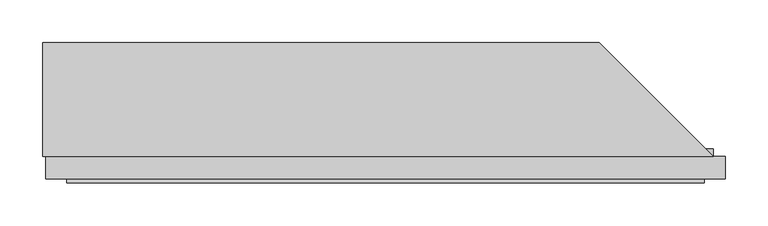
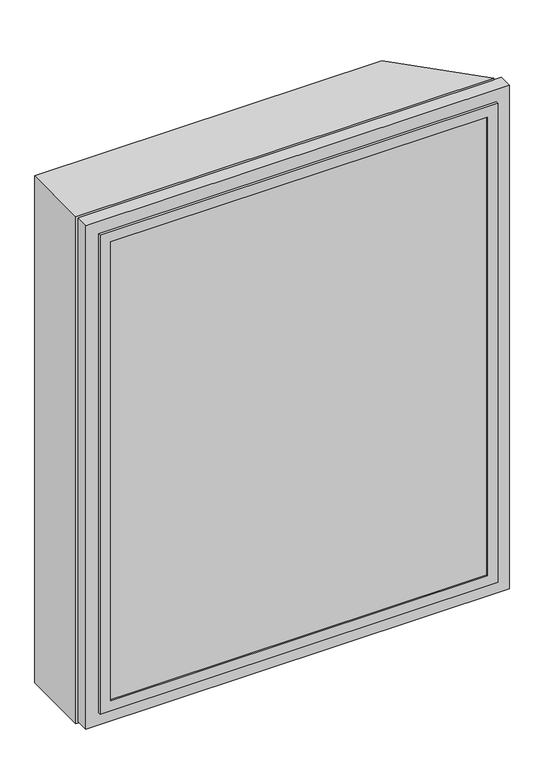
"""IFC4 building model written with IfcOpenShell, lengths in millimetres: plate geometry, SCISSOR PANEL : SCISSOR PANEL."""

from ifc_helpers import new_model, si_unit, frame, origin, place, context, project, spatial, polyline, outline, extrude, faceted_brep, source, transform, mapped, element, save


def plate_52a0c9b0(model_context):
    return source(origin(), model_context, "Body", "SolidModel", [
        faceted_brep([(-398.9048282, -132.5, 0.0), (381.4048282, -132.5, 0.0), (381.4048282, -132.5, 17.5), (-381.4048282, -132.5, 17.5), (-381.4048282, -132.5, 982.5), (381.4048282, -132.5, 982.5), (381.4048282, -132.5, 1000.0), (-398.9048282, -132.5, 1000.0), (-381.4048282, 0.0, 982.5), (-381.4048282, 0.0, 17.5), (248.9048282, 0.0, 1000.0), (248.9048282, 0.0, 982.5), (248.9048282, 0.0, 17.5), (248.9048282, 0.0, 0.0), (-398.9048282, 0.0, 1000.0), (-398.9048282, 0.0, 0.0)], [[[0, 1, 2, 3, 4, 5, 6, 7]], [[8, 4, 3, 9]], [[10, 6, 5, 11]], [[12, 2, 1, 13]], [[14, 10, 11, 8, 9, 12, 13, 15]], [[15, 0, 7, 14]], [[15, 13, 1, 0]], [[7, 6, 10, 14]], [[4, 8, 11, 5]], [[2, 12, 9, 3]]]),
        extrude(outline(polyline([(-368.4048282, -160.5), (-368.4048282, -135.5), (368.4048282, -135.5), (368.4048282, -160.5), (-368.4048282, -160.5)])), frame((0.0, 0.0, 30.5), z_axis=(0.0, 0.0, 1.0), x_axis=(1.0, 0.0, 0.0)), (0.0, 0.0, 1.0), 939.0),
        faceted_brep([(-351.4048282, -135.5, 952.5), (-351.4048282, -135.5, 47.5), (-351.4048282, -132.5, 47.5), (-351.4048282, -132.5, 952.5), (-368.4048282, -160.5, 969.5), (-368.4048282, -160.5, 30.5), (-368.4048282, -135.5, 30.5), (-368.4048282, -135.5, 969.5), (-351.4048282, -163.5, 952.5), (-351.4048282, -163.5, 47.5), (-351.4048282, -160.5, 47.5), (-351.4048282, -160.5, 952.5), (-371.4048282, -132.5, 972.5), (-371.4048282, -132.5, 27.5), (-371.4048282, -163.5, 27.5), (-371.4048282, -163.5, 972.5), (351.4048282, -135.5, 47.5), (351.4048282, -132.5, 47.5), (368.4048282, -160.5, 30.5), (368.4048282, -135.5, 30.5), (351.4048282, -163.5, 47.5), (351.4048282, -160.5, 47.5), (371.4048282, -132.5, 27.5), (371.4048282, -163.5, 27.5), (351.4048282, -135.5, 952.5), (351.4048282, -132.5, 952.5), (368.4048282, -160.5, 969.5), (368.4048282, -135.5, 969.5), (351.4048282, -163.5, 952.5), (351.4048282, -160.5, 952.5), (371.4048282, -132.5, 972.5), (371.4048282, -163.5, 972.5)], [[[0, 1, 2, 3]], [[4, 5, 6, 7]], [[8, 9, 10, 11]], [[12, 13, 14, 15]], [[1, 16, 17, 2]], [[5, 18, 19, 6]], [[9, 20, 21, 10]], [[13, 22, 23, 14]], [[16, 24, 25, 17]], [[18, 26, 27, 19]], [[20, 28, 29, 21]], [[22, 30, 31, 23]], [[13, 12, 30, 22], [3, 2, 17, 25]], [[24, 0, 3, 25]], [[7, 6, 19, 27], [1, 0, 24, 16]], [[26, 4, 7, 27]], [[5, 4, 26, 18], [11, 10, 21, 29]], [[28, 8, 11, 29]], [[15, 14, 23, 31], [9, 8, 28, 20]], [[30, 12, 15, 31]]]),
        faceted_brep([(-395.4048282, -132.5, 996.5), (-395.4048282, -132.5, 3.5), (-395.4048282, -158.75, 3.5), (-395.4048282, -158.75, 996.5), (-388.4048282, -150.0, 989.5), (-388.4048282, -150.0, 10.5), (-388.4048282, -132.5, 10.5), (-388.4048282, -132.5, 989.5), (-381.4048282, -123.75, 982.5), (-381.4048282, -123.75, 17.5), (-381.4048282, -150.0, 17.5), (-381.4048282, -150.0, 982.5), (-371.4048282, -158.75, 972.5), (-371.4048282, -158.75, 27.5), (-371.4048282, -123.75, 27.5), (-371.4048282, -123.75, 972.5), (395.4048282, -132.5, 3.5), (395.4048282, -158.75, 3.5), (388.4048282, -150.0, 10.5), (388.4048282, -132.5, 10.5), (381.4048282, -123.75, 17.5), (381.4048282, -150.0, 17.5), (371.4048282, -158.75, 27.5), (371.4048282, -123.75, 27.5), (395.4048282, -132.5, 996.5), (395.4048282, -158.75, 996.5), (388.4048282, -150.0, 989.5), (388.4048282, -132.5, 989.5), (381.4048282, -123.75, 982.5), (381.4048282, -150.0, 982.5), (371.4048282, -158.75, 972.5), (371.4048282, -123.75, 972.5)], [[[0, 1, 2, 3]], [[4, 5, 6, 7]], [[8, 9, 10, 11]], [[12, 13, 14, 15]], [[1, 16, 17, 2]], [[5, 18, 19, 6]], [[9, 20, 21, 10]], [[13, 22, 23, 14]], [[16, 24, 25, 17]], [[18, 26, 27, 19]], [[20, 28, 29, 21]], [[22, 30, 31, 23]], [[24, 0, 3, 25]], [[1, 0, 24, 16], [7, 6, 19, 27]], [[26, 4, 7, 27]], [[5, 4, 26, 18], [11, 10, 21, 29]], [[28, 8, 11, 29]], [[9, 8, 28, 20], [15, 14, 23, 31]], [[30, 12, 15, 31]], [[3, 2, 17, 25], [13, 12, 30, 22]]]),
        extrude(outline(polyline([(989.5, -388.4048282), (10.5, -388.4048282), (10.5, 388.4048282), (989.5, 388.4048282), (989.5, -388.4048282)]), holes=[polyline([(982.5, -381.4048282), (982.5, 381.4048282), (17.5, 381.4048282), (17.5, -381.4048282), (982.5, -381.4048282)])]), frame((0.0, -150.0, 0.0), z_axis=(0.0, 1.0, 0.0), x_axis=(0.0, 0.0, 1.0)), (0.0, 0.0, 1.0), 17.5),
    ])


if __name__ == "__main__":
    model = new_model("IFC4")
    model_context = context("Model", 3, world=origin())
    ifc_project = project(units=[si_unit("LENGTHUNIT", "METRE", prefix="MILLI")], contexts=[model_context])
    site = spatial("IfcSite", under=ifc_project)
    building = spatial("IfcBuilding", under=site)
    placement = place(None, origin())
    plate_shape = plate_52a0c9b0(model_context)
    element("IfcPlate", 1, ObjectType="SCISSOR PANEL : SCISSOR PANEL", at=placement, inside=building, context=model_context, shape_type="MappedRepresentation", body=[
        mapped(plate_shape, transform((0.0, 0.0, 0.0), x_axis=(1.0, 0.0, 0.0), y_axis=(0.0, 1.0, 0.0), z_axis=(0.0, 0.0, 1.0))),
    ])
    save(model, "model.ifc")
